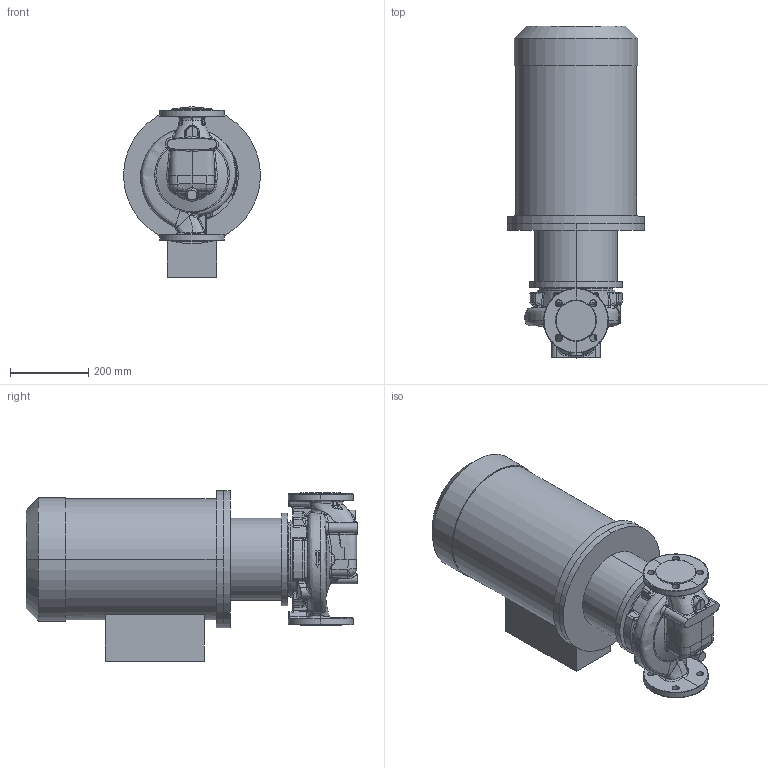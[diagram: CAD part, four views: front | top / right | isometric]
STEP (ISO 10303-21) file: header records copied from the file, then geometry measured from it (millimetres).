
FILE_DESCRIPTION (( 'STEP AP203' ), '1' );
FILE_NAME ('KRL 50-160-2-11.STEP', '2026-04-03T09:37:11', ( '' ), ( '' ), 'SwSTEP 2.0', 'SolidWorks 2016', '' );
FILE_SCHEMA (( 'CONFIG_CONTROL_DESIGN' ));
Length unit declared in the file: millimetre
Products named in the file (1): KRL 50-160-2-11
Bounding box: 350 x 847.3 x 435 mm (x, y, z)
Volume: 54929528.1 mm3; surface area: 1512529.1 mm2
Topology: 4 solids, 4 shells, 761 faces, 1822 edges, 1057 vertices
Faces by surface type: bspline 413, cylinder 135, plane 96, sphere 57, cone 34, torus 26
Entity records: 79985 total; most frequent: CARTESIAN_POINT 65813, ORIENTED_EDGE 3582, DIRECTION 2100, EDGE_CURVE 1791, VERTEX_POINT 1057, AXIS2_PLACEMENT_3D 933, B_SPLINE_CURVE_WITH_KNOTS 841, EDGE_LOOP 796
